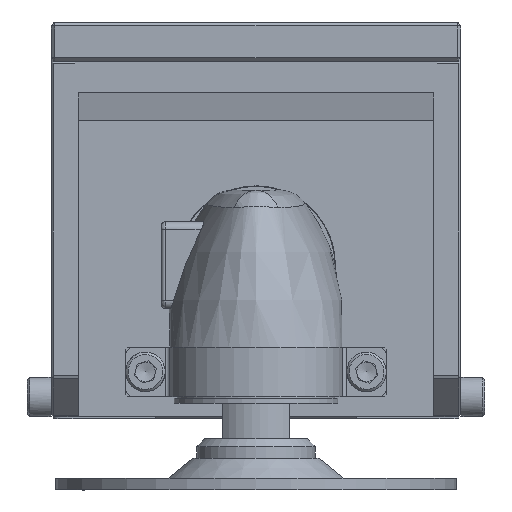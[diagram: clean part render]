
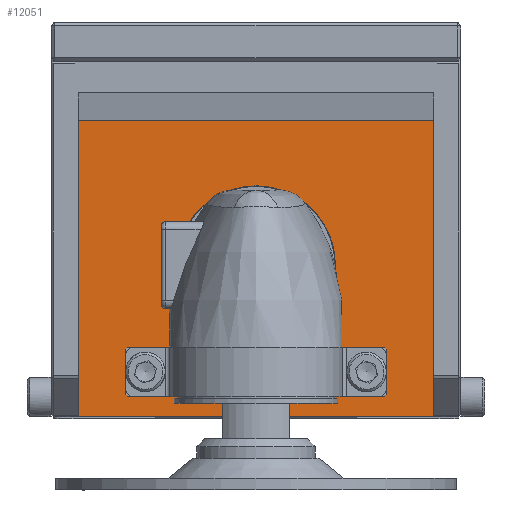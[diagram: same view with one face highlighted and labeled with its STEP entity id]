
A CAD part, front view. The second image highlights one B-rep face of the part: STEP entity #12051.
In plain terms, the highlighted planar face has unit normal (0, -1, 0).
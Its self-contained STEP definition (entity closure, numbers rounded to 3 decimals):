
#93=(
BOUNDED_CURVE()
B_SPLINE_CURVE(2,(#18094,#18095,#18096),.UNSPECIFIED.,.F.,.F.)
B_SPLINE_CURVE_WITH_KNOTS((3,3),(0.,0.078),.UNSPECIFIED.)
CURVE()
GEOMETRIC_REPRESENTATION_ITEM()
RATIONAL_B_SPLINE_CURVE((1.,1.015,1.))
REPRESENTATION_ITEM($)
);
#94=(
BOUNDED_CURVE()
B_SPLINE_CURVE(2,(#18100,#18101,#18102),.UNSPECIFIED.,.F.,.F.)
B_SPLINE_CURVE_WITH_KNOTS((3,3),(0.,0.078),.UNSPECIFIED.)
CURVE()
GEOMETRIC_REPRESENTATION_ITEM()
RATIONAL_B_SPLINE_CURVE((1.,1.015,1.))
REPRESENTATION_ITEM($)
);
#95=(
BOUNDED_CURVE()
B_SPLINE_CURVE(2,(#18106,#18107,#18108),.UNSPECIFIED.,.F.,.F.)
B_SPLINE_CURVE_WITH_KNOTS((3,3),(0.,0.078),.UNSPECIFIED.)
CURVE()
GEOMETRIC_REPRESENTATION_ITEM()
RATIONAL_B_SPLINE_CURVE((1.,1.015,1.))
REPRESENTATION_ITEM($)
);
#96=(
BOUNDED_CURVE()
B_SPLINE_CURVE(2,(#18111,#18112,#18113),.UNSPECIFIED.,.F.,.F.)
B_SPLINE_CURVE_WITH_KNOTS((3,3),(0.,0.078),.UNSPECIFIED.)
CURVE()
GEOMETRIC_REPRESENTATION_ITEM()
RATIONAL_B_SPLINE_CURVE((1.,1.015,1.))
REPRESENTATION_ITEM($)
);
#479=LINE($,#18084,#1519);
#480=LINE($,#18086,#1520);
#481=LINE($,#18088,#1521);
#482=LINE($,#18089,#1522);
#483=LINE($,#18092,#1523);
#484=LINE($,#18098,#1524);
#485=LINE($,#18104,#1525);
#486=LINE($,#18110,#1526);
#1519=VECTOR($,#14544,90.);
#1520=VECTOR($,#14545,75.);
#1521=VECTOR($,#14546,90.);
#1522=VECTOR($,#14547,75.);
#1523=VECTOR($,#14548,53.468);
#1524=VECTOR($,#14549,11.5);
#1525=VECTOR($,#14550,53.468);
#1526=VECTOR($,#14551,11.5);
#2439=PLANE($,#12887);
#2840=FACE_BOUND($,#3974,.T.);
#2841=FACE_BOUND($,#3975,.T.);
#3195=FACE_OUTER_BOUND($,#3973,.T.);
#3973=EDGE_LOOP($,(#8370,#8371,#8372,#8373));
#3974=EDGE_LOOP($,(#8374,#8375,#8376,#8377,#8378,#8379,#8380,#8381));
#3975=EDGE_LOOP($,(#8382));
#4915=CIRCLE($,#12888,20.);
#5542=VERTEX_POINT($,#18082);
#5543=VERTEX_POINT($,#18083);
#5544=VERTEX_POINT($,#18085);
#5545=VERTEX_POINT($,#18087);
#5546=VERTEX_POINT($,#18090);
#5547=VERTEX_POINT($,#18091);
#5548=VERTEX_POINT($,#18093);
#5549=VERTEX_POINT($,#18097);
#5550=VERTEX_POINT($,#18099);
#5551=VERTEX_POINT($,#18103);
#5552=VERTEX_POINT($,#18105);
#5553=VERTEX_POINT($,#18109);
#5554=VERTEX_POINT($,#18114);
#6638=EDGE_CURVE($,#5542,#5543,#479,.T.);
#6639=EDGE_CURVE($,#5544,#5543,#480,.T.);
#6640=EDGE_CURVE($,#5545,#5544,#481,.T.);
#6641=EDGE_CURVE($,#5542,#5545,#482,.T.);
#6642=EDGE_CURVE($,#5546,#5547,#483,.T.);
#6643=EDGE_CURVE($,#5548,#5546,#93,.T.);
#6644=EDGE_CURVE($,#5549,#5548,#484,.T.);
#6645=EDGE_CURVE($,#5550,#5549,#94,.T.);
#6646=EDGE_CURVE($,#5551,#5550,#485,.T.);
#6647=EDGE_CURVE($,#5552,#5551,#95,.T.);
#6648=EDGE_CURVE($,#5553,#5552,#486,.T.);
#6649=EDGE_CURVE($,#5547,#5553,#96,.T.);
#6650=EDGE_CURVE($,#5554,#5554,#4915,.T.);
#8370=ORIENTED_EDGE($,*,*,#6638,.T.);
#8371=ORIENTED_EDGE($,*,*,#6639,.F.);
#8372=ORIENTED_EDGE($,*,*,#6640,.F.);
#8373=ORIENTED_EDGE($,*,*,#6641,.F.);
#8374=ORIENTED_EDGE($,*,*,#6642,.F.);
#8375=ORIENTED_EDGE($,*,*,#6643,.F.);
#8376=ORIENTED_EDGE($,*,*,#6644,.F.);
#8377=ORIENTED_EDGE($,*,*,#6645,.F.);
#8378=ORIENTED_EDGE($,*,*,#6646,.F.);
#8379=ORIENTED_EDGE($,*,*,#6647,.F.);
#8380=ORIENTED_EDGE($,*,*,#6648,.F.);
#8381=ORIENTED_EDGE($,*,*,#6649,.F.);
#8382=ORIENTED_EDGE($,*,*,#6650,.F.);
#12051=ADVANCED_FACE($,(#3195,#2840,#2841),#2439,.T.);
#12887=AXIS2_PLACEMENT_3D($,#18081,#14542,#14543);
#12888=AXIS2_PLACEMENT_3D($,#18115,#14552,#14553);
#14542=DIRECTION('center_axis',(0.,-1.,0.));
#14543=DIRECTION('ref_axis',(0.,0.,-1.));
#14544=DIRECTION($,(1.,0.,0.));
#14545=DIRECTION($,(0.,0.,-1.));
#14546=DIRECTION($,(1.,0.,0.));
#14547=DIRECTION($,(0.,0.,1.));
#14548=DIRECTION($,(-1.,0.,0.));
#14549=DIRECTION($,(0.,0.,1.));
#14550=DIRECTION($,(1.,0.,0.));
#14551=DIRECTION($,(0.,0.,-1.));
#14552=DIRECTION('center_axis',(0.,-1.,0.));
#14553=DIRECTION('ref_axis',(0.,0.,
1.));
#18081=CARTESIAN_POINT('Origin',(51.9,-65.,-25.));
#18082=CARTESIAN_POINT('',(6.9,-65.,-100.));
#18083=CARTESIAN_POINT('',(96.9,-65.,-100.));
#18084=CARTESIAN_POINT($,(51.9,-65.,-100.));
#18085=CARTESIAN_POINT('',(96.9,-65.,-25.));
#18086=CARTESIAN_POINT($,(96.9,-65.,-25.));
#18087=CARTESIAN_POINT('',(6.9,-65.,-25.));
#18088=CARTESIAN_POINT($,(51.9,-65.,-25.));
#18089=CARTESIAN_POINT($,(6.9,-65.,-25.));
#18090=CARTESIAN_POINT('',(78.634,-65.,-82.353));
#18091=CARTESIAN_POINT('',(25.166,-65.,-82.353));
#18092=CARTESIAN_POINT($,(51.9,-65.,-82.353));
#18093=CARTESIAN_POINT('',(79.23,-65.,-82.853));
#18094=CARTESIAN_POINT('Ctrl Pts',(79.23,-65.,-82.853));
#18095=CARTESIAN_POINT('Ctrl Pts',(78.975,-65.,-82.654));
#18096=CARTESIAN_POINT('Ctrl Pts',(78.634,-65.,-82.353));
#18097=CARTESIAN_POINT('',(79.23,-65.,-94.353));
#18098=CARTESIAN_POINT($,(79.23,-65.,-94.853));
#18099=CARTESIAN_POINT('',(78.634,-65.,-94.853));
#18100=CARTESIAN_POINT('Ctrl Pts',(78.634,-65.,-94.853));
#18101=CARTESIAN_POINT('Ctrl Pts',(78.975,-65.,-94.552));
#18102=CARTESIAN_POINT('Ctrl Pts',(79.23,-65.,-94.353));
#18103=CARTESIAN_POINT('',(25.166,-65.,-94.853));
#18104=CARTESIAN_POINT($,(51.9,-65.,-94.853));
#18105=CARTESIAN_POINT('',(24.57,-65.,-94.353));
#18106=CARTESIAN_POINT('Ctrl Pts',(24.57,-65.,-94.353));
#18107=CARTESIAN_POINT('Ctrl Pts',(24.825,-65.,-94.552));
#18108=CARTESIAN_POINT('Ctrl Pts',(25.166,-65.,-94.853));
#18109=CARTESIAN_POINT('',(24.57,-65.,-82.853));
#18110=CARTESIAN_POINT($,(24.57,-65.,-94.853));
#18111=CARTESIAN_POINT('Ctrl Pts',(25.166,-65.,-82.353));
#18112=CARTESIAN_POINT('Ctrl Pts',(24.825,-65.,-82.654));
#18113=CARTESIAN_POINT('Ctrl Pts',(24.57,-65.,-82.853));
#18114=CARTESIAN_POINT('',(51.9,-65.,-81.603));
#18115=CARTESIAN_POINT('Origin',(51.9,-65.,-61.603));
